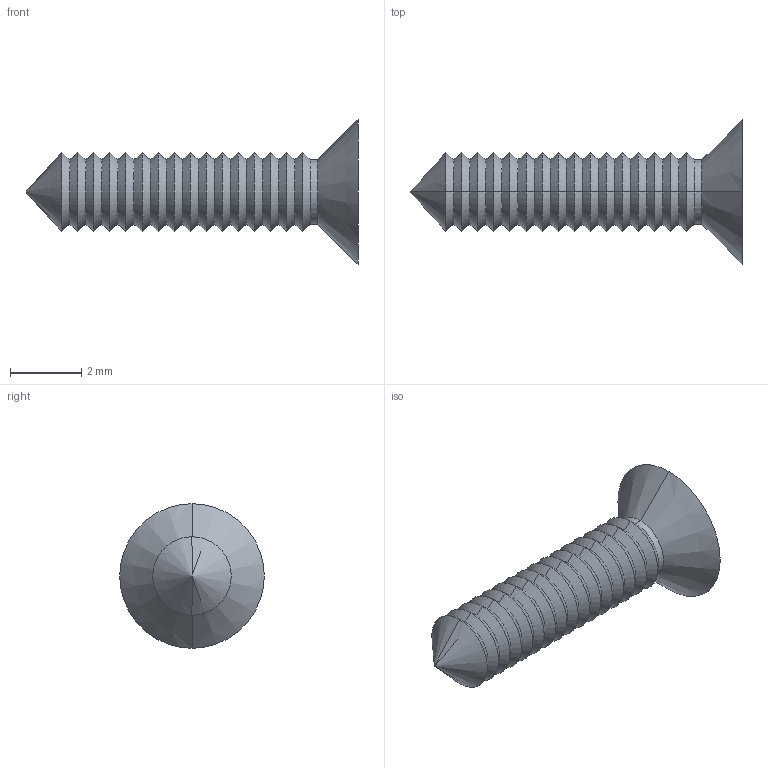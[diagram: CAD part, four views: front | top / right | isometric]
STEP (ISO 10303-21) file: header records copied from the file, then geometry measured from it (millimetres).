
FILE_DESCRIPTION (( 'STEP AP214' ), '1' );
FILE_NAME ('Cargol 2,2x9,3 PP94 E.STEP', '2017-10-16T07:06:23', ( 'aaa' ), ( '' ), 'SwSTEP 2.0', 'SolidWorks 2013', '' );
FILE_SCHEMA (( 'AUTOMOTIVE_DESIGN' ));
Length unit declared in the file: millimetre
Products named in the file (1): Cargol 2,2x9,3 PP94 E
Bounding box: 9.3 x 4.05 x 4.05 mm (x, y, z)
Volume: 30.9 mm3; surface area: 95.9 mm2
Topology: 1 solids, 1 shells, 82 faces, 174 edges, 93 vertices
Faces by surface type: cone 66, plane 14, cylinder 2
Entity records: 2158 total; most frequent: DIRECTION 406, CARTESIAN_POINT 348, ORIENTED_EDGE 344, EDGE_CURVE 172, AXIS2_PLACEMENT_3D 151, LINE 104, VECTOR 104, VERTEX_POINT 93
